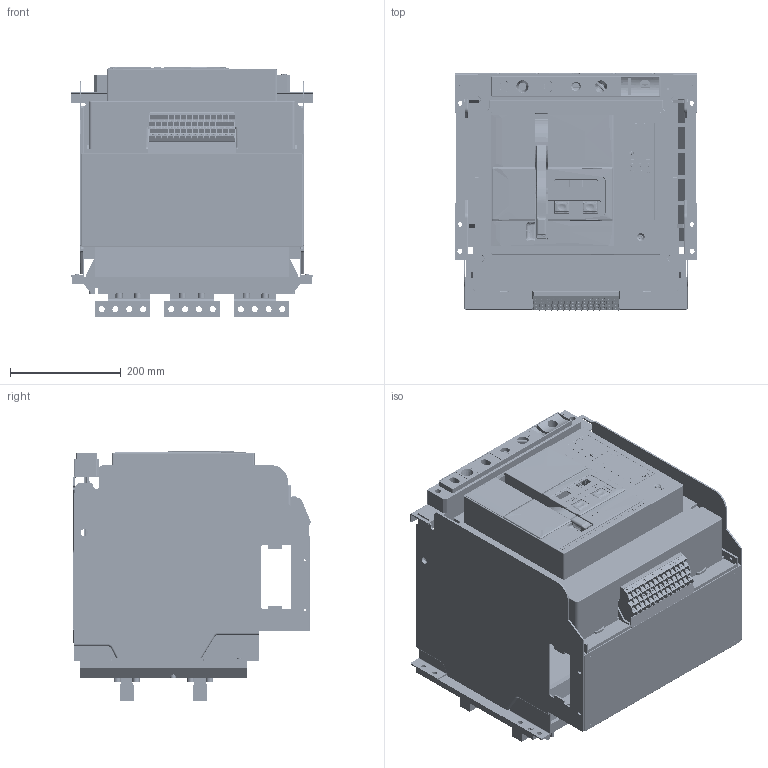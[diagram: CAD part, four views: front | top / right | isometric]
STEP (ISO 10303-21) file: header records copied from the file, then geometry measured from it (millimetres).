
FILE_DESCRIPTION((''),'2;1');
FILE_NAME('NA8-4000H-3P-D-3200A-4000A-H_ASM','2021-11-08T13:45:42',('lcc'),(''),'CREO PARAMETRIC BY PTC INC, 2020044','CREO PARAMETRIC BY PTC INC, 2020044','');
FILE_SCHEMA(('CONFIG_CONTROL_DESIGN','SHAPE_APPEARANCE_LAYERS_GROUPS'));
Products named in the file (26): 8050A0306126T2; 8050A0306120T; 8050A0306121T; 8300A0306003; 8ZTD-300-536; 8ZTD-227-004; 40-3P-DIBAN02; 8ZTD-060-207; 8ZTD-253-779; 8ZTD-253-780; 8ZTD-253-782; 8-040-432; 8-004-030; 8-860-KZQ; 8-320-094; 8ZTD-253-577; 8ZTD-064-136; 8ZTD-024-837T; 8ZTD-860-699; 5ZTD-558-695-4000_ASM; 8580A0412010; 8580A0412011; GBT70_1-M8X20; GB93-8_1; QNKJ_0200012_2-M8X20_ASM; NA8-4000H-3P-D-3200A-4000A-H_ASM
Assembly tree (65 placements, depth 3):
  NA8-4000H-3P-D-3200A-4000A-H_ASM
    8050A0306126T2
    8050A0306120T
    8050A0306121T
    8300A0306003
    8ZTD-300-536
    8ZTD-227-004
    40-3P-DIBAN02
    8ZTD-060-207
    8ZTD-253-779
    8ZTD-253-780
    8ZTD-253-782
    8-040-432
    8-004-030
    8-860-KZQ
    8-320-094
    8ZTD-253-577
    5ZTD-558-695-4000_ASM
      8ZTD-064-136
      8ZTD-024-837T  x14
      8ZTD-860-699
    8580A0412010  x2
    8580A0412011  x4
    QNKJ_0200012_2-M8X20_ASM  x24
      GBT70_1-M8X20
      GB93-8_1
Bounding box: 439 x 429.53 x 452.18 mm (x, y, z)
Volume: 13808217.8 mm3; surface area: 3113054.5 mm2
Topology: 85 solids, 163 shells, 8882 faces, 23689 edges, 15298 vertices
Faces by surface type: plane 5797, cylinder 1892, cone 404, torus 318, extrusion 222, bspline 219, sphere 30
Entity records: 313121 total; most frequent: CARTESIAN_POINT 64094, ORIENTED_EDGE 35721, DIRECTION 32462, PRESENTATION_STYLE_ASSIGNMENT 21949, STYLED_ITEM 21798, CURVE_STYLE 17984, EDGE_CURVE 17902, VECTOR 13312
